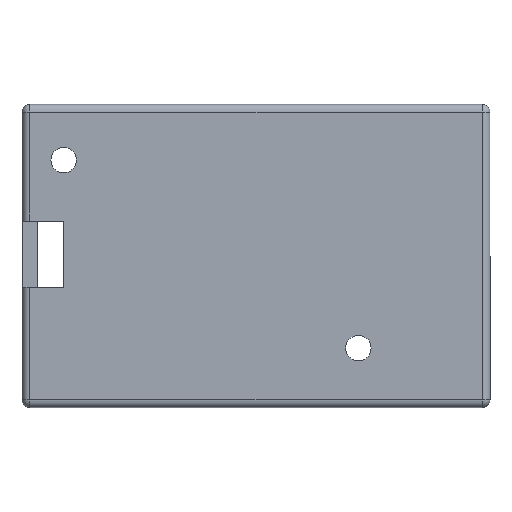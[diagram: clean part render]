
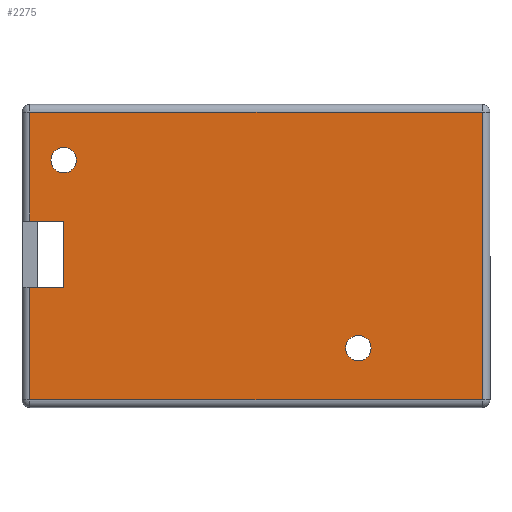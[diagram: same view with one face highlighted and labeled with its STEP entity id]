
A CAD part, front view. The second image highlights one B-rep face of the part: STEP entity #2275.
In plain terms, the highlighted planar face has unit normal (0, -1, 0).
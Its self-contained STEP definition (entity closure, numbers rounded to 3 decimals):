
#27=FACE_BOUND('',#317,.T.);
#28=FACE_BOUND('',#318,.T.);
#117=CIRCLE('',#2447,2.5);
#118=CIRCLE('',#2448,2.5);
#179=FACE_OUTER_BOUND('',#316,.T.);
#316=EDGE_LOOP('',(#1681,#1682,#1683,#1684,#1685,#1686,#1687,#1688));
#317=EDGE_LOOP('',(#1689));
#318=EDGE_LOOP('',(#1690));
#503=LINE('',#3474,#764);
#504=LINE('',#3483,#765);
#507=LINE('',#3490,#768);
#515=LINE('',#3505,#776);
#518=LINE('',#3513,#779);
#520=LINE('',#3517,#781);
#524=LINE('',#3524,#785);
#525=LINE('',#3525,#786);
#764=VECTOR('',#2766,10.);
#765=VECTOR('',#2777,10.);
#768=VECTOR('',#2784,10.);
#776=VECTOR('',#2802,10.);
#779=VECTOR('',#2811,10.);
#781=VECTOR('',#2815,10.);
#785=VECTOR('',#2821,10.);
#786=VECTOR('',#2822,10.);
#1031=VERTEX_POINT('',#3452);
#1034=VERTEX_POINT('',#3459);
#1039=VERTEX_POINT('',#3469);
#1042=VERTEX_POINT('',#3479);
#1043=VERTEX_POINT('',#3486);
#1048=VERTEX_POINT('',#3511);
#1049=VERTEX_POINT('',#3516);
#1051=VERTEX_POINT('',#3523);
#1052=VERTEX_POINT('',#3526);
#1053=VERTEX_POINT('',#3528);
#1271=EDGE_CURVE('',#1034,#1039,#503,.T.);
#1275=EDGE_CURVE('',#1039,#1042,#504,.T.);
#1279=EDGE_CURVE('',#1042,#1043,#507,.T.);
#1288=EDGE_CURVE('',#1031,#1034,#515,.T.);
#1292=EDGE_CURVE('',#1048,#1031,#518,.T.);
#1294=EDGE_CURVE('',#1049,#1043,#520,.T.);
#1298=EDGE_CURVE('',#1051,#1048,#524,.T.);
#1299=EDGE_CURVE('',#1051,#1049,#525,.T.);
#1300=EDGE_CURVE('',#1052,#1052,#117,.T.);
#1301=EDGE_CURVE('',#1053,#1053,#118,.T.);
#1681=ORIENTED_EDGE('',*,*,#1279,.F.);
#1682=ORIENTED_EDGE('',*,*,#1275,.F.);
#1683=ORIENTED_EDGE('',*,*,#1271,.F.);
#1684=ORIENTED_EDGE('',*,*,#1288,.F.);
#1685=ORIENTED_EDGE('',*,*,#1292,.F.);
#1686=ORIENTED_EDGE('',*,*,#1298,.F.);
#1687=ORIENTED_EDGE('',*,*,#1299,.T.);
#1688=ORIENTED_EDGE('',*,*,#1294,.T.);
#1689=ORIENTED_EDGE('',*,*,#1300,.T.);
#1690=ORIENTED_EDGE('',*,*,#1301,.T.);
#2168=PLANE('',#2446);
#2275=ADVANCED_FACE('',(#179,#27,#28),#2168,.F.);
#2446=AXIS2_PLACEMENT_3D('',#3522,#2819,#2820);
#2447=AXIS2_PLACEMENT_3D('',#3527,#2823,#2824);
#2448=AXIS2_PLACEMENT_3D('',#3529,#2825,#2826);
#2766=DIRECTION('',(0.,0.,-1.));
#2777=DIRECTION('',(-1.,0.,0.));
#2784=DIRECTION('',(0.,0.,1.));
#2802=DIRECTION('',(1.,0.,0.));
#2811=DIRECTION('',(0.,0.,1.));
#2815=DIRECTION('',(-1.,0.,0.));
#2819=DIRECTION('center_axis',(0.,1.,0.));
#2820=DIRECTION('ref_axis',(1.,0.,0.));
#2821=DIRECTION('',(-1.,0.,0.));
#2822=DIRECTION('',(0.,0.,-1.));
#2823=DIRECTION('center_axis',(0.,1.,0.));
#2824=DIRECTION('ref_axis',(-1.,0.,0.));
#2825=DIRECTION('center_axis',(0.,1.,0.));
#2826=DIRECTION('ref_axis',(-1.,0.,0.));
#3452=CARTESIAN_POINT('',(-113.2,-6.,55.95));
#3459=CARTESIAN_POINT('',(-24.1,-6.,55.95));
#3469=CARTESIAN_POINT('',(-24.1,-6.,-0.7));
#3474=CARTESIAN_POINT('',(-24.1,-6.,24.));
#3479=CARTESIAN_POINT('',(-113.2,-6.,-0.7));
#3483=CARTESIAN_POINT('',(-44.8,-6.,-0.7));
#3486=CARTESIAN_POINT('',(-113.2,-6.,21.5));
#3490=CARTESIAN_POINT('',(-113.2,-6.,12.9));
#3505=CARTESIAN_POINT('',(-46.,-6.,55.95));
#3511=CARTESIAN_POINT('',(-113.2,-6.,34.5));
#3513=CARTESIAN_POINT('',(-113.2,-6.,12.9));
#3516=CARTESIAN_POINT('',(-106.5,-6.,21.5));
#3517=CARTESIAN_POINT('',(-112.2,-6.,21.5));
#3522=CARTESIAN_POINT('Origin',(-67.,-6.,28.));
#3523=CARTESIAN_POINT('',(-106.5,-6.,34.5));
#3524=CARTESIAN_POINT('',(-112.2,-6.,34.5));
#3525=CARTESIAN_POINT('',(-106.5,-6.,23.25));
#3526=CARTESIAN_POINT('',(-104.,-6.,46.5));
#3527=CARTESIAN_POINT('Origin',(-106.5,-6.,46.5));
#3528=CARTESIAN_POINT('',(-46.,-6.,9.5));
#3529=CARTESIAN_POINT('Origin',(-48.5,-6.,9.5));
